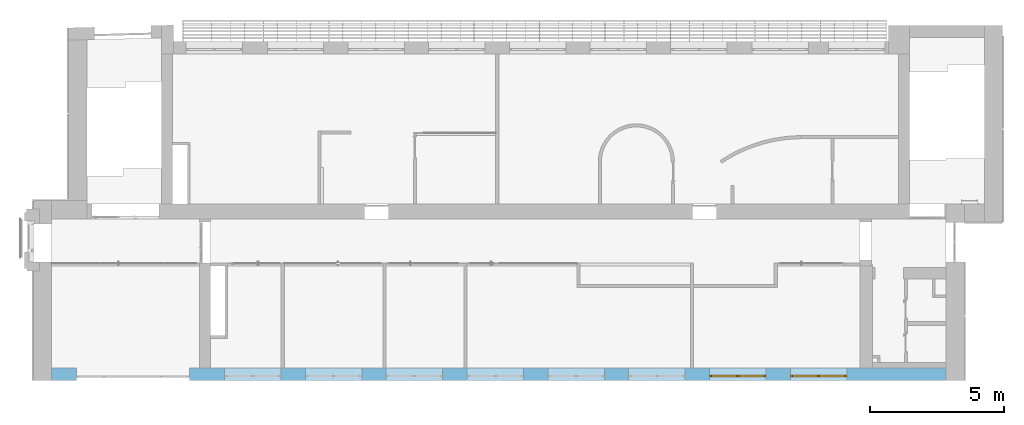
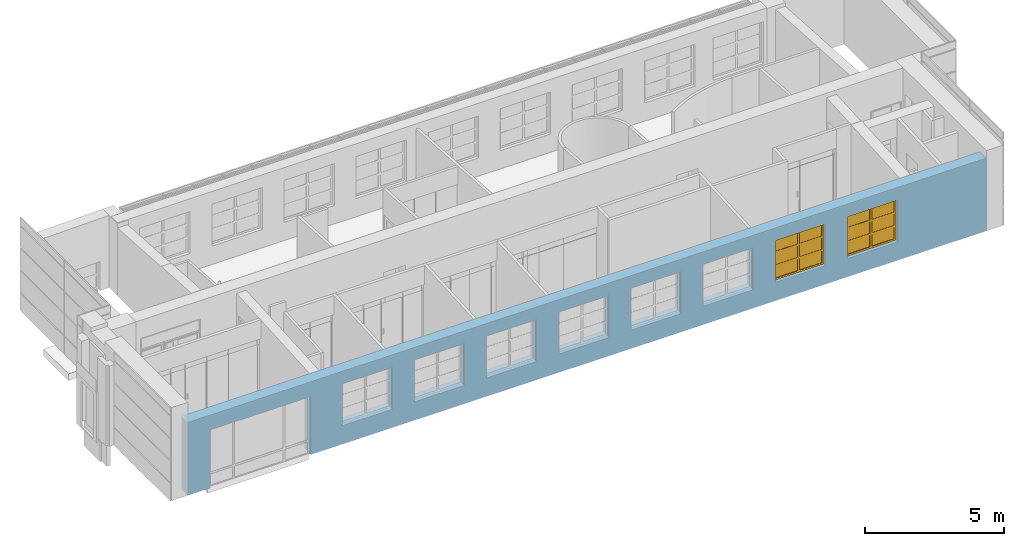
# One storey, part 29 of 46: 2 windows, 9 openings, plus 1 element that does not belong to this part.
"""IFC2X3 building model written with IfcOpenShell, lengths in millimetres."""

from ifc_helpers import new_model, entity, si_unit, converted_unit, derived_unit, direction, frame, frame_2d, origin, origin_2d_with_axis, place, context, subcontext, project, spatial, rectangle, extrude, face_set, surface_model, source, transform, mapped, material, material_list, layer, layer_set, layer_usage, type_object, type_shapes, element, fill, save


model = new_model("IFC2X3")

# Units and contexts
model_context = context("Model", 3, precision=0.01, world=origin(), true_north=direction((6.12303176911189e-17, 1.0)))
body_context = subcontext(model_context, "Body", "Model", "MODEL_VIEW")
ifc_project = project(units=[si_unit("LENGTHUNIT", "METRE", prefix="MILLI"), si_unit("AREAUNIT", "SQUARE_METRE"), si_unit("VOLUMEUNIT", "CUBIC_METRE"), converted_unit("PLANEANGLEUNIT", "DEGREE", entity("IfcRatioMeasure", 0.0174532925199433), si_unit("PLANEANGLEUNIT", "RADIAN"), dimensions=[0, 0, 0, 0, 0, 0, 0]), si_unit("MASSUNIT", "GRAM", prefix="KILO"), derived_unit("MASSDENSITYUNIT", [(si_unit("MASSUNIT", "GRAM", prefix="KILO"), 1), (si_unit("LENGTHUNIT", "METRE"), -3)]), si_unit("TIMEUNIT", "SECOND"), si_unit("FREQUENCYUNIT", "HERTZ"), si_unit("THERMODYNAMICTEMPERATUREUNIT", "DEGREE_CELSIUS"), derived_unit("THERMALTRANSMITTANCEUNIT", [(si_unit("MASSUNIT", "GRAM", prefix="KILO"), 1), (si_unit("THERMODYNAMICTEMPERATUREUNIT", "KELVIN"), -1), (si_unit("TIMEUNIT", "SECOND"), -3)]), derived_unit("VOLUMETRICFLOWRATEUNIT", [(si_unit("LENGTHUNIT", "METRE"), 3), (si_unit("TIMEUNIT", "SECOND"), -1)]), si_unit("ELECTRICCURRENTUNIT", "AMPERE"), si_unit("ELECTRICVOLTAGEUNIT", "VOLT"), si_unit("POWERUNIT", "WATT"), si_unit("FORCEUNIT", "NEWTON", prefix="KILO"), si_unit("ILLUMINANCEUNIT", "LUX"), si_unit("LUMINOUSFLUXUNIT", "LUMEN"), si_unit("LUMINOUSINTENSITYUNIT", "CANDELA"), derived_unit("USERDEFINED", [(si_unit("MASSUNIT", "GRAM", prefix="KILO"), -1), (si_unit("LENGTHUNIT", "METRE"), -2), (si_unit("TIMEUNIT", "SECOND"), 3), (si_unit("LUMINOUSFLUXUNIT", "LUMEN"), 1)]), derived_unit("LINEARVELOCITYUNIT", [(si_unit("LENGTHUNIT", "METRE"), 1), (si_unit("TIMEUNIT", "SECOND"), -1)]), si_unit("PRESSUREUNIT", "PASCAL"), derived_unit("USERDEFINED", [(si_unit("LENGTHUNIT", "METRE"), -2), (si_unit("MASSUNIT", "GRAM", prefix="KILO"), 1), (si_unit("TIMEUNIT", "SECOND"), -2)])], contexts=[model_context])

# Site, building, storey
site_placement = place(None, frame((-151.875543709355, 2715.0, 0.0)))
site = spatial("IfcSite", under=ifc_project, at=site_placement, Name="Surface", CompositionType="ELEMENT")
building_placement = place(site_placement, origin())
building = spatial("IfcBuilding", under=site, at=building_placement, CompositionType="ELEMENT")
storey_placement = place(building_placement, frame((0.0, 0.0, 10060.0)))
storey = spatial("IfcBuildingStorey", under=building, at=storey_placement, Name="4 korrus", CompositionType="ELEMENT", Elevation=10060.0000000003)

# Wall, openings, windows
ifc_material_1 = material(Name="Brick, Common")
ifc_layer_1 = layer(ifc_material_1, 440.0)
ifc_material_2 = material(Name="__Kips GN13_tava")
ifc_layer_2 = layer(ifc_material_2, 20.0)
ifc_layer_set = layer_set([ifc_layer_1, ifc_layer_2], Name="Basic Wall:VS-1")
ifc_layer_usage = layer_usage(ifc_layer_set, "AXIS2", "NEGATIVE", 230.0)
wall_type = type_object("IfcWallType", Name="Basic Wall:VS-1", PredefinedType="STANDARD", material=ifc_layer_set)
wall_placement = place(storey_placement, frame((33741.6162682, 229.904632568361, 0.0), z_axis=(0.0, 0.0, 1.0), x_axis=(-1.0, 0.0, 0.0)))
wall = element("IfcWallStandardCase", 1, at=wall_placement, inside=storey, type_object=wall_type, material=ifc_layer_usage, Name="SEIN - 001", ObjectType="Basic Wall:VS-1", context=body_context, shape_type="SweptSolid", body=[
    extrude(rectangle(XDim=33281.740722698, YDim=460.0, at=frame_2d((16640.870361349, 0.0), x_axis=(-1.0, 0.0))), origin(), (0.0, 0.0, 1.0), 3210.37840402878),
])
opening_1_placement = place(wall_placement, frame((33741.6162682, 229.904632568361, 0.0), z_axis=(0.0, 0.0, 1.0), x_axis=(-1.0, 0.0, 0.0)))
element("IfcOpeningElement", 2, at=opening_1_placement, cuts=wall, Name="SEIN - 001", ObjectType="Opening", context=body_context, shape_type="SweptSolid", body=[
    extrude(rectangle(XDim=2560.0, YDim=4200.0, at=frame_2d((2.27373675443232e-13, 1.02318153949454e-12), x_axis=(0.0, 1.0))), frame((3483.85381698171, 928.104632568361, 1280.0), z_axis=(0.0, -1.0, 0.0), x_axis=(-1.0, 0.0, 0.0)), (0.0, 0.0, 1.0), 1393.8),
])
opening_2_placement = place(wall_placement, frame((33741.6162682, 229.904632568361, 0.0), z_axis=(0.0, 0.0, 1.0), x_axis=(-1.0, 0.0, 0.0)))
element("IfcOpeningElement", 3, at=opening_2_placement, cuts=wall, Name="SEIN - 001", ObjectType="Opening", context=body_context, shape_type="SweptSolid", body=[
    extrude(rectangle(XDim=1850.0, YDim=2100.0, at=frame_2d((0.0, 1.02318153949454e-12), x_axis=(1.0, 0.0))), frame((10949.5647264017, 927.804632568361, 1734.628696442), z_axis=(0.0, -1.0, 0.0), x_axis=(0.0, 0.0, 1.0)), (0.0, 0.0, 1.0), 1393.8),
])
opening_3_placement = place(wall_placement, frame((33741.6162682, 229.904632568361, 0.0), z_axis=(0.0, 0.0, 1.0), x_axis=(-1.0, 0.0, 0.0)))
element("IfcOpeningElement", 4, at=opening_3_placement, cuts=wall, Name="SEIN - 001", ObjectType="Opening", context=body_context, shape_type="SweptSolid", body=[
    extrude(rectangle(XDim=1850.0, YDim=2100.0, at=frame_2d((0.0, 5.6843418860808e-13), x_axis=(1.0, 0.0))), frame((7949.56472636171, 927.804632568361, 1734.628696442), z_axis=(0.0, -1.0, 0.0), x_axis=(0.0, 0.0, 1.0)), (0.0, 0.0, 1.0), 1393.8),
])
opening_4_placement = place(wall_placement, frame((33741.6162682, 229.904632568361, 0.0), z_axis=(0.0, 0.0, 1.0), x_axis=(-1.0, 0.0, 0.0)))
element("IfcOpeningElement", 5, at=opening_4_placement, cuts=wall, Name="SEIN - 001", ObjectType="Opening", context=body_context, shape_type="SweptSolid", body=[
    extrude(rectangle(XDim=1850.0, YDim=2100.0, at=origin_2d_with_axis()), frame((13949.5647264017, 927.804632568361, 1734.628696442), z_axis=(0.0, -1.0, 0.0), x_axis=(0.0, 0.0, 1.0)), (0.0, 0.0, 1.0), 1393.8),
])
opening_5_placement = place(wall_placement, frame((33741.6162682, 229.904632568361, 0.0), z_axis=(0.0, 0.0, 1.0), x_axis=(-1.0, 0.0, 0.0)))
element("IfcOpeningElement", 6, at=opening_5_placement, cuts=wall, Name="SEIN - 001", ObjectType="Opening", context=body_context, shape_type="SweptSolid", body=[
    extrude(rectangle(XDim=1850.0, YDim=2100.0, at=frame_2d((0.0, 1.02318153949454e-12), x_axis=(1.0, 0.0))), frame((16969.5647264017, 927.804632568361, 1734.628696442), z_axis=(0.0, -1.0, 0.0), x_axis=(0.0, 0.0, 1.0)), (0.0, 0.0, 1.0), 1393.8),
])
opening_6_placement = place(wall_placement, frame((33741.6162682, 229.904632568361, 0.0), z_axis=(0.0, 0.0, 1.0), x_axis=(-1.0, 0.0, 0.0)))
element("IfcOpeningElement", 7, at=opening_6_placement, cuts=wall, Name="SEIN - 001", ObjectType="Opening", context=body_context, shape_type="SweptSolid", body=[
    extrude(rectangle(XDim=1850.0, YDim=2100.0, at=origin_2d_with_axis()), frame((19979.5647264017, 927.804632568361, 1734.628696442), z_axis=(0.0, -1.0, 0.0), x_axis=(0.0, 0.0, 1.0)), (0.0, 0.0, 1.0), 1393.8),
])
opening_7_placement = place(wall_placement, frame((33741.6162682, 229.904632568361, 0.0), z_axis=(0.0, 0.0, 1.0), x_axis=(-1.0, 0.0, 0.0)))
element("IfcOpeningElement", 8, at=opening_7_placement, cuts=wall, Name="SEIN - 001", ObjectType="Opening", context=body_context, shape_type="SweptSolid", body=[
    extrude(rectangle(XDim=1850.0, YDim=2100.0, at=origin_2d_with_axis()), frame((22979.5647264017, 927.804632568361, 1734.628696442), z_axis=(0.0, -1.0, 0.0), x_axis=(0.0, 0.0, 1.0)), (0.0, 0.0, 1.0), 1393.8),
])
opening_8_placement = place(wall_placement, frame((33741.6162682, 229.904632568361, 0.0), z_axis=(0.0, 0.0, 1.0), x_axis=(-1.0, 0.0, 0.0)))
opening_8 = element("IfcOpeningElement", 9, at=opening_8_placement, cuts=wall, Name="SEIN - 001", ObjectType="Opening", context=body_context, shape_type="SweptSolid", body=[
    extrude(rectangle(XDim=1850.0, YDim=2100.0, at=origin_2d_with_axis()), frame((25989.5647264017, 927.804632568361, 1734.628696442), z_axis=(0.0, -1.0, 0.0), x_axis=(0.0, 0.0, 1.0)), (0.0, 0.0, 1.0), 1393.8),
])
opening_9_placement = place(wall_placement, frame((33741.6162682, 229.904632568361, 0.0), z_axis=(0.0, 0.0, 1.0), x_axis=(-1.0, 0.0, 0.0)))
opening_9 = element("IfcOpeningElement", 10, at=opening_9_placement, cuts=wall, Name="SEIN - 001", ObjectType="Opening", context=body_context, shape_type="SweptSolid", body=[
    extrude(rectangle(XDim=1850.0, YDim=2100.0, at=origin_2d_with_axis()), frame((28999.5647264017, 927.804632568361, 1734.628696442), z_axis=(0.0, -1.0, 0.0), x_axis=(0.0, 0.0, 1.0)), (0.0, 0.0, 1.0), 1393.8),
])
ifc_material_3 = material(Name="Paint - Titanium White")
ifc_material_4 = material(Name="Paint - Dark Gray")
ifc_material_5 = material(Name="Glass - Clear Fast")
ifc_material_list_1 = material_list([ifc_material_3, ifc_material_4, ifc_material_5])
ifc_material_list_2 = material_list([ifc_material_3, ifc_material_4, ifc_material_5])
window_style = type_object("IfcWindowStyle", Name="Aken_1850x2100", ConstructionType="NOTDEFINED", OperationType="DOUBLE_PANEL_VERTICAL", ParameterTakesPrecedence=False, Sizeable=False, material=ifc_material_list_2)
shared_shape = source(origin(), body_context, "Body", "SurfaceModel", [
    surface_model("IfcFaceBasedSurfaceModel", [(80.0, -665.9, 1770.0), (80.0, -620.9, 1770.0), (0.0, -620.9, 1770.0), (0.0, -665.9, 1770.0), (80.0, -665.9, 80.0), (80.0, -620.9, 80.0), (80.0, -620.9, 1770.0), (80.0, -665.9, 1770.0), (80.0, -620.9, 1770.0), (80.0, -620.9, 80.0), (0.0, -620.9, 80.0), (0.0, -620.9, 1770.0), (0.0, -665.9, 1770.0), (0.0, -620.9, 1770.0), (0.0, -620.9, 80.0), (0.0, -665.9, 80.0), (80.0, -665.9, 1770.0), (0.0, -665.9, 1770.0), (0.0, -665.9, 80.0), (80.0, -665.9, 80.0), (0.0, -665.9, 80.0), (0.0, -620.9, 80.0), (80.0, -620.9, 80.0), (80.0, -665.9, 80.0), (2020.0, -665.9, 80.0), (2020.0, -620.9, 80.0), (2100.0, -620.9, 80.0), (2100.0, -665.9, 80.0), (2020.0, -665.9, 1770.0), (2020.0, -620.9, 1770.0), (2020.0, -620.9, 80.0), (2020.0, -665.9, 80.0), (2020.0, -620.9, 80.0), (2020.0, -620.9, 1770.0), (2100.0, -620.9, 1770.0), (2100.0, -620.9, 80.0), (2100.0, -665.9, 80.0), (2100.0, -620.9, 80.0), (2100.0, -620.9, 1770.0), (2100.0, -665.9, 1770.0), (2020.0, -665.9, 80.0), (2100.0, -665.9, 80.0), (2100.0, -665.9, 1770.0), (2020.0, -665.9, 1770.0), (2100.0, -665.9, 1770.0), (2100.0, -620.9, 1770.0), (2020.0, -620.9, 1770.0), (2020.0, -665.9, 1770.0), (1010.0, -665.9, 80.0), (1010.0, -620.9, 80.0), (1090.0, -620.9, 80.0), (1090.0, -665.9, 80.0), (1010.0, -665.9, 1770.0), (1010.0, -620.9, 1770.0), (1010.0, -620.9, 80.0), (1010.0, -665.9, 80.0), (1010.0, -620.9, 80.0), (1010.0, -620.9, 1770.0), (1090.0, -620.9, 1770.0), (1090.0, -620.9, 80.0), (1090.0, -665.9, 80.0), (1090.0, -620.9, 80.0), (1090.0, -620.9, 1770.0), (1090.0, -665.9, 1770.0), (1010.0, -665.9, 80.0), (1090.0, -665.9, 80.0), (1090.0, -665.9, 1770.0), (1010.0, -665.9, 1770.0), (1090.0, -665.9, 1770.0), (1090.0, -620.9, 1770.0), (1010.0, -620.9, 1770.0), (1010.0, -665.9, 1770.0), (80.0, -665.9, 80.0), (80.0, -620.9, 80.0), (0.0, -620.9, 80.0), (0.0, -665.9, 80.0), (1010.0, -665.9, 80.0), (1010.0, -620.9, 80.0), (80.0, -620.9, 80.0), (80.0, -665.9, 80.0), (80.0, -620.9, 80.0), (1010.0, -620.9, 80.0), (1090.0, -620.9, 80.0), (2020.0, -620.9, 80.0), (2100.0, -620.9, 80.0), (2100.0, -620.9, 0.0), (0.0, -620.9, 0.0), (0.0, -620.9, 80.0), (0.0, -665.9, 80.0), (0.0, -620.9, 80.0), (0.0, -620.9, 0.0), (0.0, -665.9, 0.0), (80.0, -665.9, 80.0), (0.0, -665.9, 80.0), (0.0, -665.9, 0.0), (2100.0, -665.9, 0.0), (2100.0, -665.9, 80.0), (2020.0, -665.9, 80.0), (1090.0, -665.9, 80.0), (1010.0, -665.9, 80.0), (1090.0, -665.9, 80.0), (1090.0, -620.9, 80.0), (1010.0, -620.9, 80.0), (1010.0, -665.9, 80.0), (2020.0, -665.9, 80.0), (2020.0, -620.9, 80.0), (1090.0, -620.9, 80.0), (1090.0, -665.9, 80.0), (2100.0, -665.9, 80.0), (2100.0, -620.9, 80.0), (2020.0, -620.9, 80.0), (2020.0, -665.9, 80.0), (2100.0, -665.9, 0.0), (2100.0, -620.9, 0.0), (2100.0, -620.9, 80.0), (2100.0, -665.9, 80.0), (0.0, -665.9, 0.0), (0.0, -620.9, 0.0), (2100.0, -620.9, 0.0), (2100.0, -665.9, 0.0), (1010.0, -665.9, 1770.0), (1010.0, -620.9, 1770.0), (1090.0, -620.9, 1770.0), (1090.0, -665.9, 1770.0), (80.0, -665.9, 1770.0), (80.0, -620.9, 1770.0), (1010.0, -620.9, 1770.0), (1010.0, -665.9, 1770.0), (1010.0, -620.9, 1770.0), (80.0, -620.9, 1770.0), (0.0, -620.9, 1770.0), (0.0, -620.9, 1850.0), (2100.0, -620.9, 1850.0), (2100.0, -620.9, 1770.0), (2020.0, -620.9, 1770.0), (1090.0, -620.9, 1770.0), (1090.0, -665.9, 1770.0), (1090.0, -620.9, 1770.0), (2020.0, -620.9, 1770.0), (2020.0, -665.9, 1770.0), (1010.0, -665.9, 1770.0), (1090.0, -665.9, 1770.0), (2020.0, -665.9, 1770.0), (2100.0, -665.9, 1770.0), (2100.0, -665.9, 1850.0), (0.0, -665.9, 1850.0), (0.0, -665.9, 1770.0), (80.0, -665.9, 1770.0), (0.0, -665.9, 1770.0), (0.0, -620.9, 1770.0), (80.0, -620.9, 1770.0), (80.0, -665.9, 1770.0), (0.0, -665.9, 1850.0), (0.0, -620.9, 1850.0), (0.0, -620.9, 1770.0), (0.0, -665.9, 1770.0), (2100.0, -665.9, 1850.0), (2100.0, -620.9, 1850.0), (0.0, -620.9, 1850.0), (0.0, -665.9, 1850.0), (2100.0, -665.9, 1770.0), (2100.0, -620.9, 1770.0), (2100.0, -620.9, 1850.0), (2100.0, -665.9, 1850.0), (2020.0, -665.9, 1770.0), (2020.0, -620.9, 1770.0), (2100.0, -620.9, 1770.0), (2100.0, -665.9, 1770.0), (80.0, -640.9, 590.0), (80.0, -630.9, 590.0), (1010.0, -630.9, 590.0), (1010.0, -640.9, 590.0), (80.0, -640.9, 670.0), (80.0, -630.9, 670.0), (80.0, -630.9, 590.0), (80.0, -640.9, 590.0), (80.0, -630.9, 590.0), (80.0, -630.9, 670.0), (1010.0, -630.9, 670.0), (1010.0, -630.9, 590.0), (1010.0, -640.9, 590.0), (1010.0, -630.9, 590.0), (1010.0, -630.9, 670.0), (1010.0, -640.9, 670.0), (80.0, -640.9, 590.0), (1010.0, -640.9, 590.0), (1010.0, -640.9, 670.0), (80.0, -640.9, 670.0), (1010.0, -640.9, 670.0), (1010.0, -630.9, 670.0), (80.0, -630.9, 670.0), (80.0, -640.9, 670.0), (80.0, -640.9, 1180.0), (80.0, -630.9, 1180.0), (1010.0, -630.9, 1180.0), (1010.0, -640.9, 1180.0), (80.0, -640.9, 1260.0), (80.0, -630.9, 1260.0), (80.0, -630.9, 1180.0), (80.0, -640.9, 1180.0), (80.0, -630.9, 1180.0), (80.0, -630.9, 1260.0), (1010.0, -630.9, 1260.0), (1010.0, -630.9, 1180.0), (1010.0, -640.9, 1180.0), (1010.0, -630.9, 1180.0), (1010.0, -630.9, 1260.0), (1010.0, -640.9, 1260.0), (80.0, -640.9, 1180.0), (1010.0, -640.9, 1180.0), (1010.0, -640.9, 1260.0), (80.0, -640.9, 1260.0), (1010.0, -640.9, 1260.0), (1010.0, -630.9, 1260.0), (80.0, -630.9, 1260.0), (80.0, -640.9, 1260.0), (1090.0, -640.9, 590.0), (1090.0, -630.9, 590.0), (2020.0, -630.9, 590.0), (2020.0, -640.9, 590.0), (1090.0, -640.9, 670.0), (1090.0, -630.9, 670.0), (1090.0, -630.9, 590.0), (1090.0, -640.9, 590.0), (1090.0, -630.9, 590.0), (1090.0, -630.9, 670.0), (2020.0, -630.9, 670.0), (2020.0, -630.9, 590.0), (2020.0, -640.9, 590.0), (2020.0, -630.9, 590.0), (2020.0, -630.9, 670.0), (2020.0, -640.9, 670.0), (1090.0, -640.9, 590.0), (2020.0, -640.9, 590.0), (2020.0, -640.9, 670.0), (1090.0, -640.9, 670.0), (2020.0, -640.9, 670.0), (2020.0, -630.9, 670.0), (1090.0, -630.9, 670.0), (1090.0, -640.9, 670.0), (1090.0, -640.9, 1180.0), (1090.0, -630.9, 1180.0), (2020.0, -630.9, 1180.0), (2020.0, -640.9, 1180.0), (1090.0, -640.9, 1260.0), (1090.0, -630.9, 1260.0), (1090.0, -630.9, 1180.0), (1090.0, -640.9, 1180.0), (1090.0, -630.9, 1180.0), (1090.0, -630.9, 1260.0), (2020.0, -630.9, 1260.0), (2020.0, -630.9, 1180.0), (2020.0, -640.9, 1180.0), (2020.0, -630.9, 1180.0), (2020.0, -630.9, 1260.0), (2020.0, -640.9, 1260.0), (1090.0, -640.9, 1180.0), (2020.0, -640.9, 1180.0), (2020.0, -640.9, 1260.0), (1090.0, -640.9, 1260.0), (2020.0, -640.9, 1260.0), (2020.0, -630.9, 1260.0), (1090.0, -630.9, 1260.0), (1090.0, -640.9, 1260.0)], [face_set([[[0, 1, 2, 3]]]), face_set([[[4, 5, 6, 7]]]), face_set([[[8, 9, 10, 11]]]), face_set([[[12, 13, 14, 15]]]), face_set([[[16, 17, 18, 19]]]), face_set([[[20, 21, 22, 23]]]), face_set([[[24, 25, 26, 27]]]), face_set([[[28, 29, 30, 31]]]), face_set([[[32, 33, 34, 35]]]), face_set([[[36, 37, 38, 39]]]), face_set([[[40, 41, 42, 43]]]), face_set([[[44, 45, 46, 47]]]), face_set([[[48, 49, 50, 51]]]), face_set([[[52, 53, 54, 55]]]), face_set([[[56, 57, 58, 59]]]), face_set([[[60, 61, 62, 63]]]), face_set([[[64, 65, 66, 67]]]), face_set([[[68, 69, 70, 71]]]), face_set([[[72, 73, 74, 75]]]), face_set([[[76, 77, 78, 79]]]), face_set([[[80, 81, 82, 83, 84, 85, 86, 87]]]), face_set([[[88, 89, 90, 91]]]), face_set([[[92, 93, 94, 95, 96, 97, 98, 99]]]), face_set([[[100, 101, 102, 103]]]), face_set([[[104, 105, 106, 107]]]), face_set([[[108, 109, 110, 111]]]), face_set([[[112, 113, 114, 115]]]), face_set([[[116, 117, 118, 119]]]), face_set([[[120, 121, 122, 123]]]), face_set([[[124, 125, 126, 127]]]), face_set([[[128, 129, 130, 131, 132, 133, 134, 135]]]), face_set([[[136, 137, 138, 139]]]), face_set([[[140, 141, 142, 143, 144, 145, 146, 147]]]), face_set([[[148, 149, 150, 151]]]), face_set([[[152, 153, 154, 155]]]), face_set([[[156, 157, 158, 159]]]), face_set([[[160, 161, 162, 163]]]), face_set([[[164, 165, 166, 167]]]), face_set([[[168, 169, 170, 171]]]), face_set([[[172, 173, 174, 175]]]), face_set([[[176, 177, 178, 179]]]), face_set([[[180, 181, 182, 183]]]), face_set([[[184, 185, 186, 187]]]), face_set([[[188, 189, 190, 191]]]), face_set([[[192, 193, 194, 195]]]), face_set([[[196, 197, 198, 199]]]), face_set([[[200, 201, 202, 203]]]), face_set([[[204, 205, 206, 207]]]), face_set([[[208, 209, 210, 211]]]), face_set([[[212, 213, 214, 215]]]), face_set([[[216, 217, 218, 219]]]), face_set([[[220, 221, 222, 223]]]), face_set([[[224, 225, 226, 227]]]), face_set([[[228, 229, 230, 231]]]), face_set([[[232, 233, 234, 235]]]), face_set([[[236, 237, 238, 239]]]), face_set([[[240, 241, 242, 243]]]), face_set([[[244, 245, 246, 247]]]), face_set([[[248, 249, 250, 251]]]), face_set([[[252, 253, 254, 255]]]), face_set([[[256, 257, 258, 259]]]), face_set([[[260, 261, 262, 263]]])]),
    surface_model("IfcFaceBasedSurfaceModel", [(80.0, -620.9, 1770.0), (80.0, -595.9, 1770.0), (0.0, -595.9, 1770.0), (0.0, -620.9, 1770.0), (80.0, -620.9, 80.0), (80.0, -595.9, 80.0), (80.0, -595.9, 1770.0), (80.0, -620.9, 1770.0), (80.0, -595.9, 1770.0), (80.0, -595.9, 80.0), (0.0, -595.9, 80.0), (0.0, -595.9, 1770.0), (0.0, -620.9, 1770.0), (0.0, -595.9, 1770.0), (0.0, -595.9, 80.0), (0.0, -620.9, 80.0), (80.0, -620.9, 1770.0), (0.0, -620.9, 1770.0), (0.0, -620.9, 80.0), (80.0, -620.9, 80.0), (0.0, -620.9, 80.0), (0.0, -595.9, 80.0), (80.0, -595.9, 80.0), (80.0, -620.9, 80.0), (2020.0, -620.9, 80.0), (2020.0, -595.9, 80.0), (2100.0, -595.9, 80.0), (2100.0, -620.9, 80.0), (2020.0, -620.9, 1770.0), (2020.0, -595.9, 1770.0), (2020.0, -595.9, 80.0), (2020.0, -620.9, 80.0), (2020.0, -595.9, 80.0), (2020.0, -595.9, 1770.0), (2100.0, -595.9, 1770.0), (2100.0, -595.9, 80.0), (2100.0, -620.9, 80.0), (2100.0, -595.9, 80.0), (2100.0, -595.9, 1770.0), (2100.0, -620.9, 1770.0), (2020.0, -620.9, 80.0), (2100.0, -620.9, 80.0), (2100.0, -620.9, 1770.0), (2020.0, -620.9, 1770.0), (2100.0, -620.9, 1770.0), (2100.0, -595.9, 1770.0), (2020.0, -595.9, 1770.0), (2020.0, -620.9, 1770.0), (1010.0, -620.9, 80.0), (1010.0, -595.9, 80.0), (1090.0, -595.9, 80.0), (1090.0, -620.9, 80.0), (1010.0, -620.9, 1770.0), (1010.0, -595.9, 1770.0), (1010.0, -595.9, 80.0), (1010.0, -620.9, 80.0), (1010.0, -595.9, 80.0), (1010.0, -595.9, 1770.0), (1090.0, -595.9, 1770.0), (1090.0, -595.9, 80.0), (1090.0, -620.9, 80.0), (1090.0, -595.9, 80.0), (1090.0, -595.9, 1770.0), (1090.0, -620.9, 1770.0), (1010.0, -620.9, 80.0), (1090.0, -620.9, 80.0), (1090.0, -620.9, 1770.0), (1010.0, -620.9, 1770.0), (1090.0, -620.9, 1770.0), (1090.0, -595.9, 1770.0), (1010.0, -595.9, 1770.0), (1010.0, -620.9, 1770.0), (80.0, -620.9, 80.0), (80.0, -595.9, 80.0), (0.0, -595.9, 80.0), (0.0, -620.9, 80.0), (1010.0, -620.9, 80.0), (1010.0, -595.9, 80.0), (80.0, -595.9, 80.0), (80.0, -620.9, 80.0), (80.0, -595.9, 80.0), (1010.0, -595.9, 80.0), (1090.0, -595.9, 80.0), (2020.0, -595.9, 80.0), (2100.0, -595.9, 80.0), (2100.0, -595.9, 0.0), (0.0, -595.9, 0.0), (0.0, -595.9, 80.0), (0.0, -620.9, 80.0), (0.0, -595.9, 80.0), (0.0, -595.9, 0.0), (0.0, -620.9, 0.0), (80.0, -620.9, 80.0), (0.0, -620.9, 80.0), (0.0, -620.9, 0.0), (2100.0, -620.9, 0.0), (2100.0, -620.9, 80.0), (2020.0, -620.9, 80.0), (1090.0, -620.9, 80.0), (1010.0, -620.9, 80.0), (1090.0, -620.9, 80.0), (1090.0, -595.9, 80.0), (1010.0, -595.9, 80.0), (1010.0, -620.9, 80.0), (2020.0, -620.9, 80.0), (2020.0, -595.9, 80.0), (1090.0, -595.9, 80.0), (1090.0, -620.9, 80.0), (2100.0, -620.9, 80.0), (2100.0, -595.9, 80.0), (2020.0, -595.9, 80.0), (2020.0, -620.9, 80.0), (2100.0, -620.9, 0.0), (2100.0, -595.9, 0.0), (2100.0, -595.9, 80.0), (2100.0, -620.9, 80.0), (0.0, -620.9, 0.0), (0.0, -595.9, 0.0), (2100.0, -595.9, 0.0), (2100.0, -620.9, 0.0), (1010.0, -620.9, 1770.0), (1010.0, -595.9, 1770.0), (1090.0, -595.9, 1770.0), (1090.0, -620.9, 1770.0), (80.0, -620.9, 1770.0), (80.0, -595.9, 1770.0), (1010.0, -595.9, 1770.0), (1010.0, -620.9, 1770.0), (1010.0, -595.9, 1770.0), (80.0, -595.9, 1770.0), (0.0, -595.9, 1770.0), (0.0, -595.9, 1850.0), (2100.0, -595.9, 1850.0), (2100.0, -595.9, 1770.0), (2020.0, -595.9, 1770.0), (1090.0, -595.9, 1770.0), (1090.0, -620.9, 1770.0), (1090.0, -595.9, 1770.0), (2020.0, -595.9, 1770.0), (2020.0, -620.9, 1770.0), (1010.0, -620.9, 1770.0), (1090.0, -620.9, 1770.0), (2020.0, -620.9, 1770.0), (2100.0, -620.9, 1770.0), (2100.0, -620.9, 1850.0), (0.0, -620.9, 1850.0), (0.0, -620.9, 1770.0), (80.0, -620.9, 1770.0), (0.0, -620.9, 1770.0), (0.0, -595.9, 1770.0), (80.0, -595.9, 1770.0), (80.0, -620.9, 1770.0), (0.0, -620.9, 1850.0), (0.0, -595.9, 1850.0), (0.0, -595.9, 1770.0), (0.0, -620.9, 1770.0), (2100.0, -620.9, 1850.0), (2100.0, -595.9, 1850.0), (0.0, -595.9, 1850.0), (0.0, -620.9, 1850.0), (2100.0, -620.9, 1770.0), (2100.0, -595.9, 1770.0), (2100.0, -595.9, 1850.0), (2100.0, -620.9, 1850.0), (2020.0, -620.9, 1770.0), (2020.0, -595.9, 1770.0), (2100.0, -595.9, 1770.0), (2100.0, -620.9, 1770.0), (80.0, -630.9, 590.0), (80.0, -600.9, 590.0), (1010.0, -600.9, 590.0), (1010.0, -630.9, 590.0), (80.0, -630.9, 670.0), (80.0, -600.9, 670.0), (80.0, -600.9, 590.0), (80.0, -630.9, 590.0), (80.0, -600.9, 590.0), (80.0, -600.9, 670.0), (1010.0, -600.9, 670.0), (1010.0, -600.9, 590.0), (1010.0, -630.9, 590.0), (1010.0, -600.9, 590.0), (1010.0, -600.9, 670.0), (1010.0, -630.9, 670.0), (80.0, -630.9, 590.0), (1010.0, -630.9, 590.0), (1010.0, -630.9, 670.0), (80.0, -630.9, 670.0), (1010.0, -630.9, 670.0), (1010.0, -600.9, 670.0), (80.0, -600.9, 670.0), (80.0, -630.9, 670.0), (80.0, -630.9, 1180.0), (80.0, -600.9, 1180.0), (1010.0, -600.9, 1180.0), (1010.0, -630.9, 1180.0), (80.0, -630.9, 1260.0), (80.0, -600.9, 1260.0), (80.0, -600.9, 1180.0), (80.0, -630.9, 1180.0), (80.0, -600.9, 1180.0), (80.0, -600.9, 1260.0), (1010.0, -600.9, 1260.0), (1010.0, -600.9, 1180.0), (1010.0, -630.9, 1180.0), (1010.0, -600.9, 1180.0), (1010.0, -600.9, 1260.0), (1010.0, -630.9, 1260.0), (80.0, -630.9, 1180.0), (1010.0, -630.9, 1180.0), (1010.0, -630.9, 1260.0), (80.0, -630.9, 1260.0), (1010.0, -630.9, 1260.0), (1010.0, -600.9, 1260.0), (80.0, -600.9, 1260.0), (80.0, -630.9, 1260.0), (1090.0, -630.9, 590.0), (1090.0, -600.9, 590.0), (2020.0, -600.9, 590.0), (2020.0, -630.9, 590.0), (1090.0, -630.9, 670.0), (1090.0, -600.9, 670.0), (1090.0, -600.9, 590.0), (1090.0, -630.9, 590.0), (1090.0, -600.9, 590.0), (1090.0, -600.9, 670.0), (2020.0, -600.9, 670.0), (2020.0, -600.9, 590.0), (2020.0, -630.9, 590.0), (2020.0, -600.9, 590.0), (2020.0, -600.9, 670.0), (2020.0, -630.9, 670.0), (1090.0, -630.9, 590.0), (2020.0, -630.9, 590.0), (2020.0, -630.9, 670.0), (1090.0, -630.9, 670.0), (2020.0, -630.9, 670.0), (2020.0, -600.9, 670.0), (1090.0, -600.9, 670.0), (1090.0, -630.9, 670.0), (1090.0, -630.9, 1180.0), (1090.0, -600.9, 1180.0), (2020.0, -600.9, 1180.0), (2020.0, -630.9, 1180.0), (1090.0, -630.9, 1260.0), (1090.0, -600.9, 1260.0), (1090.0, -600.9, 1180.0), (1090.0, -630.9, 1180.0), (1090.0, -600.9, 1180.0), (1090.0, -600.9, 1260.0), (2020.0, -600.9, 1260.0), (2020.0, -600.9, 1180.0), (2020.0, -630.9, 1180.0), (2020.0, -600.9, 1180.0), (2020.0, -600.9, 1260.0), (2020.0, -630.9, 1260.0), (1090.0, -630.9, 1180.0), (2020.0, -630.9, 1180.0), (2020.0, -630.9, 1260.0), (1090.0, -630.9, 1260.0), (2020.0, -630.9, 1260.0), (2020.0, -600.9, 1260.0), (1090.0, -600.9, 1260.0), (1090.0, -630.9, 1260.0)], [face_set([[[0, 1, 2, 3]]]), face_set([[[4, 5, 6, 7]]]), face_set([[[8, 9, 10, 11]]]), face_set([[[12, 13, 14, 15]]]), face_set([[[16, 17, 18, 19]]]), face_set([[[20, 21, 22, 23]]]), face_set([[[24, 25, 26, 27]]]), face_set([[[28, 29, 30, 31]]]), face_set([[[32, 33, 34, 35]]]), face_set([[[36, 37, 38, 39]]]), face_set([[[40, 41, 42, 43]]]), face_set([[[44, 45, 46, 47]]]), face_set([[[48, 49, 50, 51]]]), face_set([[[52, 53, 54, 55]]]), face_set([[[56, 57, 58, 59]]]), face_set([[[60, 61, 62, 63]]]), face_set([[[64, 65, 66, 67]]]), face_set([[[68, 69, 70, 71]]]), face_set([[[72, 73, 74, 75]]]), face_set([[[76, 77, 78, 79]]]), face_set([[[80, 81, 82, 83, 84, 85, 86, 87]]]), face_set([[[88, 89, 90, 91]]]), face_set([[[92, 93, 94, 95, 96, 97, 98, 99]]]), face_set([[[100, 101, 102, 103]]]), face_set([[[104, 105, 106, 107]]]), face_set([[[108, 109, 110, 111]]]), face_set([[[112, 113, 114, 115]]]), face_set([[[116, 117, 118, 119]]]), face_set([[[120, 121, 122, 123]]]), face_set([[[124, 125, 126, 127]]]), face_set([[[128, 129, 130, 131, 132, 133, 134, 135]]]), face_set([[[136, 137, 138, 139]]]), face_set([[[140, 141, 142, 143, 144, 145, 146, 147]]]), face_set([[[148, 149, 150, 151]]]), face_set([[[152, 153, 154, 155]]]), face_set([[[156, 157, 158, 159]]]), face_set([[[160, 161, 162, 163]]]), face_set([[[164, 165, 166, 167]]]), face_set([[[168, 169, 170, 171]]]), face_set([[[172, 173, 174, 175]]]), face_set([[[176, 177, 178, 179]]]), face_set([[[180, 181, 182, 183]]]), face_set([[[184, 185, 186, 187]]]), face_set([[[188, 189, 190, 191]]]), face_set([[[192, 193, 194, 195]]]), face_set([[[196, 197, 198, 199]]]), face_set([[[200, 201, 202, 203]]]), face_set([[[204, 205, 206, 207]]]), face_set([[[208, 209, 210, 211]]]), face_set([[[212, 213, 214, 215]]]), face_set([[[216, 217, 218, 219]]]), face_set([[[220, 221, 222, 223]]]), face_set([[[224, 225, 226, 227]]]), face_set([[[228, 229, 230, 231]]]), face_set([[[232, 233, 234, 235]]]), face_set([[[236, 237, 238, 239]]]), face_set([[[240, 241, 242, 243]]]), face_set([[[244, 245, 246, 247]]]), face_set([[[248, 249, 250, 251]]]), face_set([[[252, 253, 254, 255]]]), face_set([[[256, 257, 258, 259]]]), face_set([[[260, 261, 262, 263]]])]),
    surface_model("IfcFaceBasedSurfaceModel", [(1010.0, -630.9, 80.0), (1010.0, -630.9, 590.0), (80.0, -630.9, 590.0), (80.0, -630.9, 80.0), (1010.0, -610.9, 80.0), (80.0, -610.9, 80.0), (80.0, -610.9, 590.0), (1010.0, -610.9, 590.0), (1010.0, -630.9, 670.0), (1010.0, -630.9, 1180.0), (80.0, -630.9, 1180.0), (80.0, -630.9, 670.0), (1010.0, -610.9, 670.0), (80.0, -610.9, 670.0), (80.0, -610.9, 1180.0), (1010.0, -610.9, 1180.0), (1010.0, -630.9, 1260.0), (1010.0, -630.9, 1770.0), (80.0, -630.9, 1770.0), (80.0, -630.9, 1260.0), (1010.0, -610.9, 1260.0), (80.0, -610.9, 1260.0), (80.0, -610.9, 1770.0), (1010.0, -610.9, 1770.0), (2020.0, -630.9, 80.0), (2020.0, -630.9, 590.0), (1090.0, -630.9, 590.0), (1090.0, -630.9, 80.0), (2020.0, -610.9, 80.0), (1090.0, -610.9, 80.0), (1090.0, -610.9, 590.0), (2020.0, -610.9, 590.0), (2020.0, -630.9, 670.0), (2020.0, -630.9, 1180.0), (1090.0, -630.9, 1180.0), (1090.0, -630.9, 670.0), (2020.0, -610.9, 670.0), (1090.0, -610.9, 670.0), (1090.0, -610.9, 1180.0), (2020.0, -610.9, 1180.0), (2020.0, -630.9, 1260.0), (2020.0, -630.9, 1770.0), (1090.0, -630.9, 1770.0), (1090.0, -630.9, 1260.0), (2020.0, -610.9, 1260.0), (1090.0, -610.9, 1260.0), (1090.0, -610.9, 1770.0), (2020.0, -610.9, 1770.0)], [face_set([[[0, 1, 2, 3]]]), face_set([[[4, 5, 6, 7]]]), face_set([[[8, 9, 10, 11]]]), face_set([[[12, 13, 14, 15]]]), face_set([[[16, 17, 18, 19]]]), face_set([[[20, 21, 22, 23]]]), face_set([[[24, 25, 26, 27]]]), face_set([[[28, 29, 30, 31]]]), face_set([[[32, 33, 34, 35]]]), face_set([[[36, 37, 38, 39]]]), face_set([[[40, 41, 42, 43]]]), face_set([[[44, 45, 46, 47]]])]),
])
type_shapes(window_style, [shared_shape])
window_1_placement = place(opening_8_placement, frame((27039.5647264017, -465.995367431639, 809.628696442), z_axis=(0.0, 0.0, 1.0), x_axis=(-1.0, 0.0, 0.0)))
window_1 = element("IfcWindow", 11, at=window_1_placement, inside=storey, type_object=window_style, material=ifc_material_list_1, Name="Aken_1850x2100:Aken_1850x2100", ObjectType="Aken_1850x2100", OverallHeight=2100.0, OverallWidth=1850.0, context=body_context, shape_type="MappedRepresentation", body=[
    mapped(shared_shape, transform((0.0, 0.0, 0.0), scale=1.0)),
])
fill(opening_8, window_1)
ifc_material_list_3 = material_list([ifc_material_3, ifc_material_4, ifc_material_5])
window_2_placement = place(opening_9_placement, frame((30049.5647264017, -465.995367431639, 809.628696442), z_axis=(0.0, 0.0, 1.0), x_axis=(-1.0, 0.0, 0.0)))
window_2 = element("IfcWindow", 12, at=window_2_placement, inside=storey, type_object=window_style, material=ifc_material_list_3, Name="Aken_1850x2100:Aken_1850x2100", ObjectType="Aken_1850x2100", OverallHeight=2100.0, OverallWidth=1850.0, context=body_context, shape_type="MappedRepresentation", body=[
    mapped(shared_shape, transform((0.0, 0.0, 0.0), scale=1.0)),
])
fill(opening_9, window_2)

save(model, "model.ifc")
